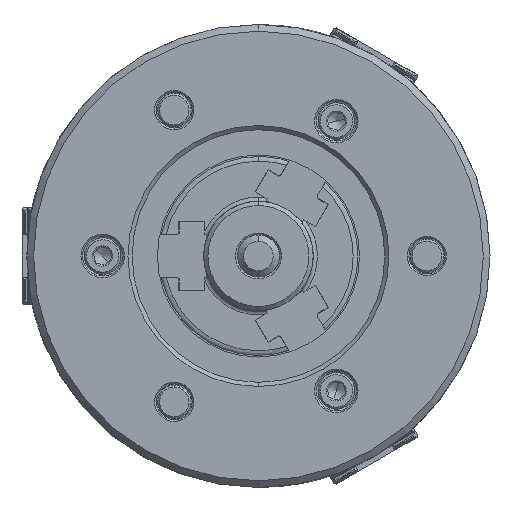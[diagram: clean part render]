
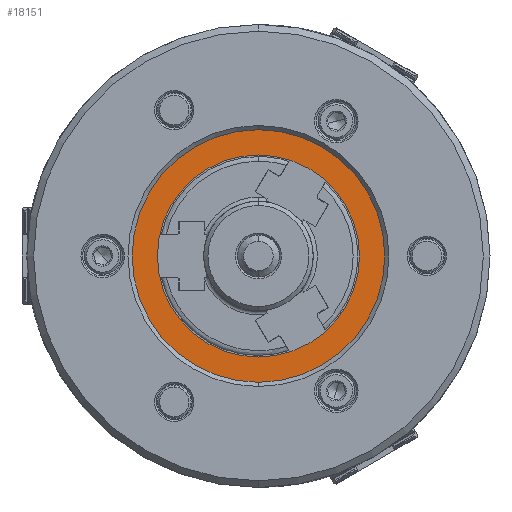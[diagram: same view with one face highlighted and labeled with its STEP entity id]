
A CAD part, left-side view. The second image highlights one B-rep face of the part: STEP entity #18151.
In plain terms, the highlighted planar face has unit normal (-1, 0, 0).
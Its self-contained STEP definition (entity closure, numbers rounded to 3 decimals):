
#1857 = AXIS2_PLACEMENT_3D ( 'NONE', #50401, #74460, #20513 ) ;
#2398 = FACE_BOUND ( 'NONE', #59341, .T. ) ;
#2552 = VERTEX_POINT ( 'NONE', #73217 ) ;
#2810 = DIRECTION ( 'NONE',  ( 0., 0., -1. ) ) ;
#3462 = ORIENTED_EDGE ( 'NONE', *, *, #54166, .T. ) ;
#4386 = DIRECTION ( 'NONE',  ( 1., 0., 0. ) ) ;
#4465 = CARTESIAN_POINT ( 'NONE',  ( -46., 0., 0. ) ) ;
#4646 = EDGE_CURVE ( 'NONE', #74494, #2552, #74542, .T. ) ;
#5160 = AXIS2_PLACEMENT_3D ( 'NONE', #14770, #9234, #38768 ) ;
#7113 = PLANE ( 'NONE',  #1857 ) ;
#8225 = CIRCLE ( 'NONE', #24573, 24. ) ;
#9234 = DIRECTION ( 'NONE',  ( 1., 0., 0. ) ) ;
#9565 = EDGE_LOOP ( 'NONE', ( #71080, #39137 ) ) ;
#14770 = CARTESIAN_POINT ( 'NONE',  ( -46., 0., 0. ) ) ;
#18151 = ADVANCED_FACE ( 'NONE', ( #26036, #2398 ), #7113, .F. ) ;
#18677 = CIRCLE ( 'NONE', #65223, 30. ) ;
#20513 = DIRECTION ( 'NONE',  ( 0., 0., -1. ) ) ;
#24573 = AXIS2_PLACEMENT_3D ( 'NONE', #75684, #63061, #2810 ) ;
#26036 = FACE_OUTER_BOUND ( 'NONE', #9565, .T. ) ;
#30445 = VERTEX_POINT ( 'NONE', #67671 ) ;
#32661 = VERTEX_POINT ( 'NONE', #69139 ) ;
#34399 = DIRECTION ( 'NONE',  ( 1., 0., 0. ) ) ;
#36252 = CARTESIAN_POINT ( 'NONE',  ( -46., 0., 0. ) ) ;
#36791 = AXIS2_PLACEMENT_3D ( 'NONE', #4465, #34399, #62785 ) ;
#38768 = DIRECTION ( 'NONE',  ( 0., 0., -1. ) ) ;
#38915 = CARTESIAN_POINT ( 'NONE',  ( -46., 0., 24. ) ) ;
#39137 = ORIENTED_EDGE ( 'NONE', *, *, #64414, .F. ) ;
#41293 = EDGE_CURVE ( 'NONE', #30445, #32661, #18677, .T. ) ;
#42871 = CIRCLE ( 'NONE', #5160, 30. ) ;
#49358 = ORIENTED_EDGE ( 'NONE', *, *, #4646, .T. ) ;
#50401 = CARTESIAN_POINT ( 'NONE',  ( -46., -30., 0. ) ) ;
#52421 = DIRECTION ( 'NONE',  ( 0., 0., -1. ) ) ;
#54166 = EDGE_CURVE ( 'NONE', #2552, #74494, #8225, .T. ) ;
#59341 = EDGE_LOOP ( 'NONE', ( #3462, #49358 ) ) ;
#62785 = DIRECTION ( 'NONE',  ( 0., 0., -1. ) ) ;
#63061 = DIRECTION ( 'NONE',  ( 1., 0., 0. ) ) ;
#64414 = EDGE_CURVE ( 'NONE', #32661, #30445, #42871, .T. ) ;
#65223 = AXIS2_PLACEMENT_3D ( 'NONE', #36252, #4386, #52421 ) ;
#67671 = CARTESIAN_POINT ( 'NONE',  ( -46., 0., -30. ) ) ;
#69139 = CARTESIAN_POINT ( 'NONE',  ( -46., 0., 30. ) ) ;
#71080 = ORIENTED_EDGE ( 'NONE', *, *, #41293, .F. ) ;
#73217 = CARTESIAN_POINT ( 'NONE',  ( -46., 0., -24. ) ) ;
#74460 = DIRECTION ( 'NONE',  ( 1., 0., 0. ) ) ;
#74494 = VERTEX_POINT ( 'NONE', #38915 ) ;
#74542 = CIRCLE ( 'NONE', #36791, 24. ) ;
#75684 = CARTESIAN_POINT ( 'NONE',  ( -46., 0., 0. ) ) ;
